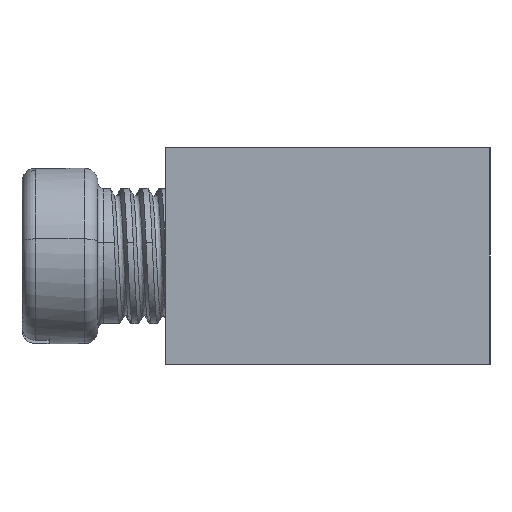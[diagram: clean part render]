
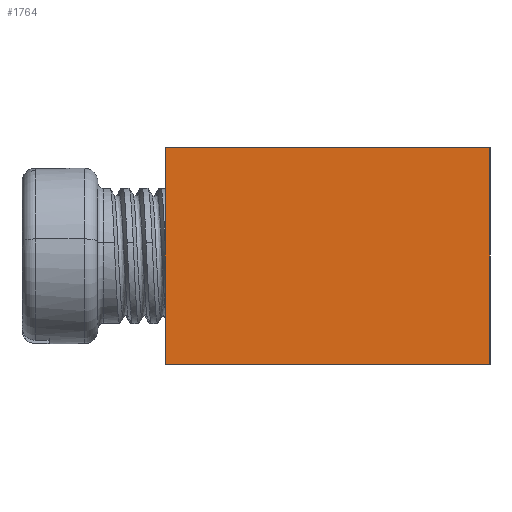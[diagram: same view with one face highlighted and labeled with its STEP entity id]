
A CAD part, left-side view. The second image highlights one B-rep face of the part: STEP entity #1764.
In plain terms, the highlighted planar face has unit normal (-1, 0, 0).
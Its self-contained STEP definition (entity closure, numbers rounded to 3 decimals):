
#40 = CARTESIAN_POINT ( 'NONE',  ( 0., 12., -8. ) ) ;
#201 = PLANE ( 'NONE',  #345 ) ;
#345 = AXIS2_PLACEMENT_3D ( 'NONE', #4022, #4499, #1686 ) ;
#871 = ORIENTED_EDGE ( 'NONE', *, *, #3404, .F. ) ;
#920 = VECTOR ( 'NONE', #1271, 1000. ) ;
#1006 = VERTEX_POINT ( 'NONE', #1684 ) ;
#1101 = CARTESIAN_POINT ( 'NONE',  ( 0., 0., 0. ) ) ;
#1271 = DIRECTION ( 'NONE',  ( 0., 0., 1. ) ) ;
#1306 = CARTESIAN_POINT ( 'NONE',  ( 0., 12., -8. ) ) ;
#1336 = ORIENTED_EDGE ( 'NONE', *, *, #2637, .T. ) ;
#1398 = EDGE_CURVE ( 'NONE', #1800, #5158, #4557, .T. ) ;
#1481 = FACE_OUTER_BOUND ( 'NONE', #3162, .T. ) ;
#1610 = EDGE_CURVE ( 'NONE', #1006, #5158, #4297, .T. ) ;
#1684 = CARTESIAN_POINT ( 'NONE',  ( 0., 12., 0. ) ) ;
#1686 = DIRECTION ( 'NONE',  ( 0., 0., 1. ) ) ;
#1764 = ADVANCED_FACE ( 'NONE', ( #1481 ), #201, .T. ) ;
#1789 = VECTOR ( 'NONE', #5135, 1000. ) ;
#1800 = VERTEX_POINT ( 'NONE', #5454 ) ;
#2471 = DIRECTION ( 'NONE',  ( 0., -1., 0. ) ) ;
#2637 = EDGE_CURVE ( 'NONE', #4013, #1800, #4064, .T. ) ;
#3066 = LINE ( 'NONE', #1306, #5500 ) ;
#3069 = ORIENTED_EDGE ( 'NONE', *, *, #1398, .T. ) ;
#3162 = EDGE_LOOP ( 'NONE', ( #3457, #871, #1336, #3069 ) ) ;
#3404 = EDGE_CURVE ( 'NONE', #4013, #1006, #3066, .T. ) ;
#3457 = ORIENTED_EDGE ( 'NONE', *, *, #1610, .F. ) ;
#3718 = CARTESIAN_POINT ( 'NONE',  ( 0., 0., 0. ) ) ;
#3918 = VECTOR ( 'NONE', #2471, 1000. ) ;
#4013 = VERTEX_POINT ( 'NONE', #40 ) ;
#4022 = CARTESIAN_POINT ( 'NONE',  ( 0., 0., -8. ) ) ;
#4064 = LINE ( 'NONE', #5257, #3918 ) ;
#4297 = LINE ( 'NONE', #3718, #1789 ) ;
#4499 = DIRECTION ( 'NONE',  ( -1., 0., 0. ) ) ;
#4557 = LINE ( 'NONE', #4584, #920 ) ;
#4584 = CARTESIAN_POINT ( 'NONE',  ( 0., 0., -8. ) ) ;
#5135 = DIRECTION ( 'NONE',  ( 0., -1., 0. ) ) ;
#5158 = VERTEX_POINT ( 'NONE', #1101 ) ;
#5257 = CARTESIAN_POINT ( 'NONE',  ( 0., 0., -8. ) ) ;
#5454 = CARTESIAN_POINT ( 'NONE',  ( 0., 0., -8. ) ) ;
#5500 = VECTOR ( 'NONE', #5531, 1000. ) ;
#5531 = DIRECTION ( 'NONE',  ( 0., 0., 1. ) ) ;
